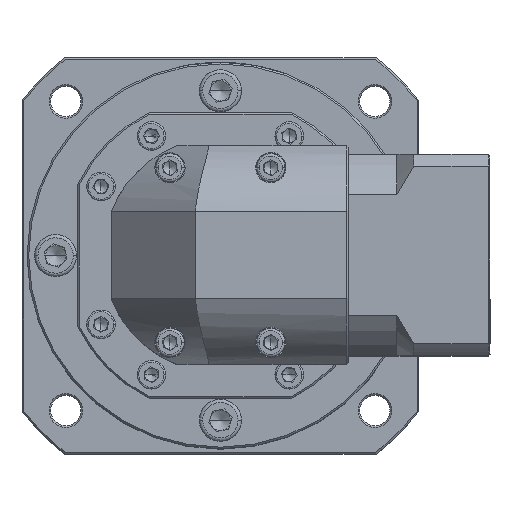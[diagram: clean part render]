
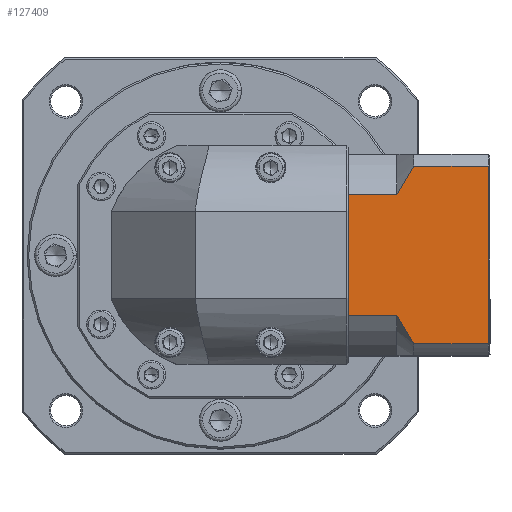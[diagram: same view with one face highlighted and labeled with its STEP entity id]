
A CAD part, top view. The second image highlights one B-rep face of the part: STEP entity #127409.
In plain terms, the highlighted planar face has unit normal (0, 0, 1).
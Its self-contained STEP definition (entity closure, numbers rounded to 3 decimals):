
#1228 = CARTESIAN_POINT ( 'NONE',  ( -43.326, 44.984, 267.093 ) ) ;
#2235 = CARTESIAN_POINT ( 'NONE',  ( -47.425, 52.051, 267.093 ) ) ;
#2381 = LINE ( 'NONE', #122292, #112178 ) ;
#2428 = VERTEX_POINT ( 'NONE', #48272 ) ;
#2479 = DIRECTION ( 'NONE',  ( 0., -1., 0. ) ) ;
#3193 = AXIS2_PLACEMENT_3D ( 'NONE', #27540, #112084, #123767 ) ;
#6762 = CARTESIAN_POINT ( 'NONE',  ( -45.873, 90.99, 267.093 ) ) ;
#9167 = CARTESIAN_POINT ( 'NONE',  ( -42.425, 96.536, 267.093 ) ) ;
#16499 = LINE ( 'NONE', #86117, #117989 ) ;
#16507 = CARTESIAN_POINT ( 'NONE',  ( -46.677, 89.558, 267.093 ) ) ;
#21262 = VECTOR ( 'NONE', #70780, 1000. ) ;
#21924 = VERTEX_POINT ( 'NONE', #99933 ) ;
#26223 = VERTEX_POINT ( 'NONE', #9167 ) ;
#27222 = CARTESIAN_POINT ( 'NONE',  ( -47.425, 88.106, 267.093 ) ) ;
#27509 = DIRECTION ( 'NONE',  ( 0., -1., 0. ) ) ;
#27540 = CARTESIAN_POINT ( 'NONE',  ( -19.725, 100.078, 267.093 ) ) ;
#27682 = CARTESIAN_POINT ( 'NONE',  ( -47.425, 88.106, 267.093 ) ) ;
#28929 = PLANE ( 'NONE',  #3193 ) ;
#29084 = CARTESIAN_POINT ( 'NONE',  ( -61.925, 87.115, 267.093 ) ) ;
#33915 = EDGE_CURVE ( 'NONE', #26223, #112384, #86073, .T. ) ;
#34383 = VECTOR ( 'NONE', #37959, 1000. ) ;
#36221 = ORIENTED_EDGE ( 'NONE', *, *, #105903, .F. ) ;
#36823 = DIRECTION ( 'NONE',  ( 0., -1., 0. ) ) ;
#37959 = DIRECTION ( 'NONE',  ( 1., 0., 0. ) ) ;
#38497 = VERTEX_POINT ( 'NONE', #76534 ) ;
#38868 = CARTESIAN_POINT ( 'NONE',  ( -44.198, 93.797, 267.093 ) ) ;
#42724 = CARTESIAN_POINT ( 'NONE',  ( -45.874, 49.169, 267.093 ) ) ;
#42952 = CARTESIAN_POINT ( 'NONE',  ( -61.925, 53.042, 267.093 ) ) ;
#44994 = DIRECTION ( 'NONE',  ( -1., 0., 0. ) ) ;
#46648 = FACE_OUTER_BOUND ( 'NONE', #106169, .T. ) ;
#47161 = CARTESIAN_POINT ( 'NONE',  ( -20.225, 96.536, 267.093 ) ) ;
#48272 = CARTESIAN_POINT ( 'NONE',  ( -20.225, 43.621, 267.093 ) ) ;
#49024 = CARTESIAN_POINT ( 'NONE',  ( -47.425, 96.536, 267.093 ) ) ;
#49092 = CARTESIAN_POINT ( 'NONE',  ( -42.425, 96.536, 267.093 ) ) ;
#50812 = EDGE_CURVE ( 'NONE', #137594, #79626, #85258, .T. ) ;
#57050 = VECTOR ( 'NONE', #27509, 1000. ) ;
#59767 = B_SPLINE_CURVE_WITH_KNOTS ( 'NONE', 3,
 ( #49092, #80066, #38868, #6762, #16507, #27222 ),
 .UNSPECIFIED., .F., .F.,
 ( 4, 2, 4 ),
 ( 0.052, 0.057, 0.062 ),
 .UNSPECIFIED. ) ;
#60783 = VERTEX_POINT ( 'NONE', #2235 ) ;
#64486 = CARTESIAN_POINT ( 'NONE',  ( -20.225, 100.078, 267.093 ) ) ;
#64832 = LINE ( 'NONE', #107072, #96434 ) ;
#65968 = CARTESIAN_POINT ( 'NONE',  ( -61.925, 88.106, 267.093 ) ) ;
#70780 = DIRECTION ( 'NONE',  ( 1., 0., 0. ) ) ;
#73138 = EDGE_CURVE ( 'NONE', #2428, #112384, #135435, .T. ) ;
#74214 = DIRECTION ( 'NONE',  ( 0., 1., 0. ) ) ;
#74628 = CARTESIAN_POINT ( 'NONE',  ( -44.2, 46.363, 267.093 ) ) ;
#75198 = VERTEX_POINT ( 'NONE', #42952 ) ;
#76270 = B_SPLINE_CURVE_WITH_KNOTS ( 'NONE', 3,
 ( #83921, #84379, #42724, #74628, #1228, #119276 ),
 .UNSPECIFIED., .F., .F.,
 ( 4, 2, 4 ),
 ( 0.1, 0.104, 0.109 ),
 .UNSPECIFIED. ) ;
#76534 = CARTESIAN_POINT ( 'NONE',  ( -61.925, 52.051, 267.093 ) ) ;
#78340 = ORIENTED_EDGE ( 'NONE', *, *, #73138, .T. ) ;
#79554 = EDGE_CURVE ( 'NONE', #26223, #104413, #59767, .T. ) ;
#79626 = VERTEX_POINT ( 'NONE', #29084 ) ;
#80066 = CARTESIAN_POINT ( 'NONE',  ( -43.324, 95.176, 267.093 ) ) ;
#82502 = ORIENTED_EDGE ( 'NONE', *, *, #33915, .F. ) ;
#83921 = CARTESIAN_POINT ( 'NONE',  ( -47.425, 52.051, 267.093 ) ) ;
#84379 = CARTESIAN_POINT ( 'NONE',  ( -46.675, 50.594, 267.093 ) ) ;
#85258 = LINE ( 'NONE', #91122, #57050 ) ;
#86073 = LINE ( 'NONE', #49024, #21262 ) ;
#86117 = CARTESIAN_POINT ( 'NONE',  ( -61.925, 100.078, 267.093 ) ) ;
#86562 = ORIENTED_EDGE ( 'NONE', *, *, #79554, .T. ) ;
#91122 = CARTESIAN_POINT ( 'NONE',  ( -61.925, 100.078, 267.093 ) ) ;
#93103 = ORIENTED_EDGE ( 'NONE', *, *, #138025, .T. ) ;
#94954 = ORIENTED_EDGE ( 'NONE', *, *, #124319, .T. ) ;
#95287 = EDGE_CURVE ( 'NONE', #2428, #21924, #64832, .T. ) ;
#96434 = VECTOR ( 'NONE', #109344, 1000. ) ;
#96755 = EDGE_CURVE ( 'NONE', #75198, #38497, #2381, .T. ) ;
#96979 = CARTESIAN_POINT ( 'NONE',  ( -47.425, 52.051, 267.093 ) ) ;
#98808 = VECTOR ( 'NONE', #74214, 1000. ) ;
#99933 = CARTESIAN_POINT ( 'NONE',  ( -42.425, 43.621, 267.093 ) ) ;
#101218 = ORIENTED_EDGE ( 'NONE', *, *, #95287, .F. ) ;
#104413 = VERTEX_POINT ( 'NONE', #118339 ) ;
#105903 = EDGE_CURVE ( 'NONE', #60783, #38497, #118298, .T. ) ;
#106169 = EDGE_LOOP ( 'NONE', ( #101218, #78340, #82502, #86562, #112707, #120978, #94954, #122340, #36221, #93103 ) ) ;
#107072 = CARTESIAN_POINT ( 'NONE',  ( -47.425, 43.621, 267.093 ) ) ;
#109344 = DIRECTION ( 'NONE',  ( -1., 0., 0. ) ) ;
#112084 = DIRECTION ( 'NONE',  ( 0., 0., -1. ) ) ;
#112178 = VECTOR ( 'NONE', #36823, 1000. ) ;
#112384 = VERTEX_POINT ( 'NONE', #47161 ) ;
#112459 = LINE ( 'NONE', #27682, #34383 ) ;
#112707 = ORIENTED_EDGE ( 'NONE', *, *, #118941, .F. ) ;
#117989 = VECTOR ( 'NONE', #2479, 1000. ) ;
#118298 = LINE ( 'NONE', #96979, #123309 ) ;
#118339 = CARTESIAN_POINT ( 'NONE',  ( -47.425, 88.106, 267.093 ) ) ;
#118941 = EDGE_CURVE ( 'NONE', #137594, #104413, #112459, .T. ) ;
#119276 = CARTESIAN_POINT ( 'NONE',  ( -42.425, 43.621, 267.093 ) ) ;
#120978 = ORIENTED_EDGE ( 'NONE', *, *, #50812, .T. ) ;
#122292 = CARTESIAN_POINT ( 'NONE',  ( -61.925, 100.078, 267.093 ) ) ;
#122340 = ORIENTED_EDGE ( 'NONE', *, *, #96755, .T. ) ;
#123309 = VECTOR ( 'NONE', #44994, 1000. ) ;
#123767 = DIRECTION ( 'NONE',  ( 1., 0., 0. ) ) ;
#124319 = EDGE_CURVE ( 'NONE', #79626, #75198, #16499, .T. ) ;
#127409 = ADVANCED_FACE ( 'NONE', ( #46648 ), #28929, .F. ) ;
#135435 = LINE ( 'NONE', #64486, #98808 ) ;
#137594 = VERTEX_POINT ( 'NONE', #65968 ) ;
#138025 = EDGE_CURVE ( 'NONE', #60783, #21924, #76270, .T. ) ;
